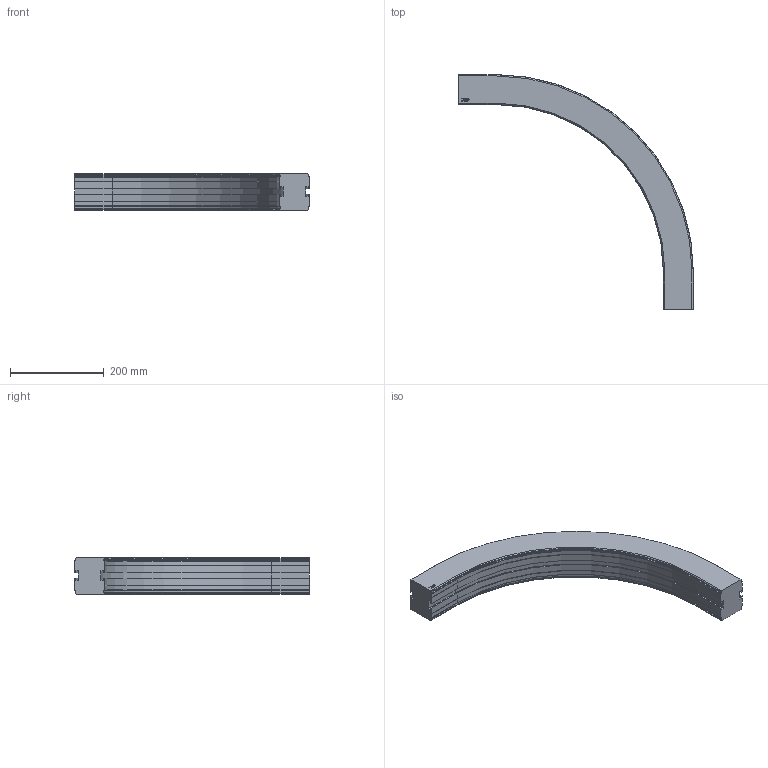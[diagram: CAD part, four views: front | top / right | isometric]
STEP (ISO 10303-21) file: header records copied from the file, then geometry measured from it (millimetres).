
FILE_DESCRIPTION((''),'2;1');
FILE_NAME('C:\Vault Klient\Projekt\Koncept konstruktion\Serie 620 Balk\620-5260.stp','2009-11-26T15:06:06',('Mathias'),(''),'Autodesk Inventor 2010','Autodesk Inventor 2010','');
FILE_SCHEMA(('AUTOMOTIVE_DESIGN { 1 0 10303 214 1 1 1 1 }'));
Length unit declared in the file: millimetre
Products named in the file (1): 620-5260
Bounding box: 501 x 501 x 78 mm (x, y, z)
Volume: 3585667.7 mm3; surface area: 287278.6 mm2
Topology: 1 solids, 1 shells, 169 faces, 446 edges, 284 vertices
Faces by surface type: plane 109, cylinder 30, bspline 14, cone 12, torus 4
Entity records: 5295 total; most frequent: CARTESIAN_POINT 1094, ORIENTED_EDGE 892, DIRECTION 802, EDGE_CURVE 446, VECTOR 346, LINE 346, VERTEX_POINT 284, AXIS2_PLACEMENT_3D 228
